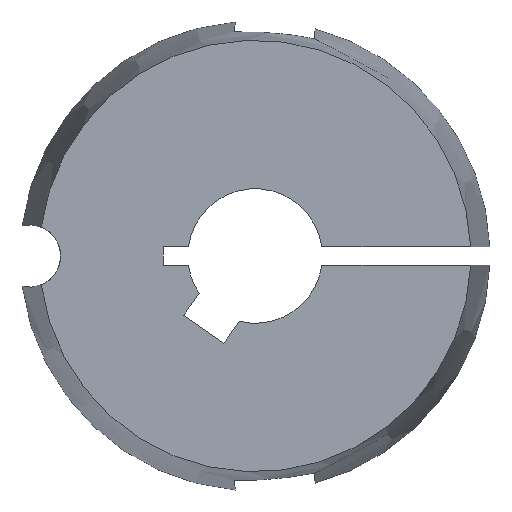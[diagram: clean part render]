
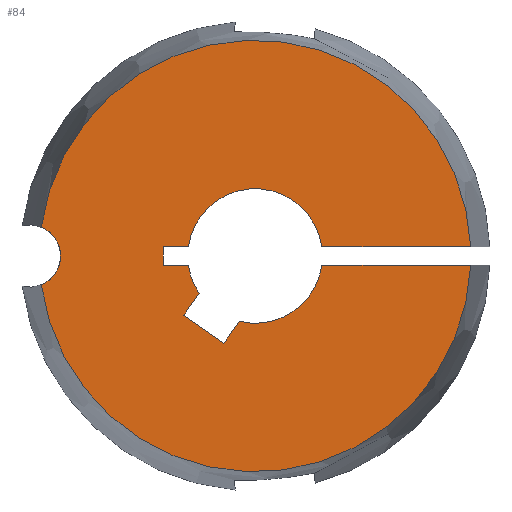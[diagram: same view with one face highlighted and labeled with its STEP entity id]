
A CAD part, left-side view. The second image highlights one B-rep face of the part: STEP entity #84.
In plain terms, the highlighted planar face has unit normal (-1, 0, 0).
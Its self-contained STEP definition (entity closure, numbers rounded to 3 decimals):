
#84 = ADVANCED_FACE( '', ( #114 ), #115, .F. );
#114 = FACE_OUTER_BOUND( '', #154, .T. );
#115 = PLANE( '', #155 );
#154 = EDGE_LOOP( '', ( #251, #252, #253, #254, #255, #256, #257, #258, #259, #260, #261, #262, #263, #264 ) );
#155 = AXIS2_PLACEMENT_3D( '', #265, #266, #267 );
#251 = ORIENTED_EDGE( '', *, *, #349, .T. );
#252 = ORIENTED_EDGE( '', *, *, #381, .F. );
#253 = ORIENTED_EDGE( '', *, *, #352, .T. );
#254 = ORIENTED_EDGE( '', *, *, #365, .T. );
#255 = ORIENTED_EDGE( '', *, *, #363, .T. );
#256 = ORIENTED_EDGE( '', *, *, #360, .T. );
#257 = ORIENTED_EDGE( '', *, *, #369, .T. );
#258 = ORIENTED_EDGE( '', *, *, #382, .T. );
#259 = ORIENTED_EDGE( '', *, *, #383, .T. );
#260 = ORIENTED_EDGE( '', *, *, #384, .T. );
#261 = ORIENTED_EDGE( '', *, *, #385, .T. );
#262 = ORIENTED_EDGE( '', *, *, #386, .T. );
#263 = ORIENTED_EDGE( '', *, *, #354, .T. );
#264 = ORIENTED_EDGE( '', *, *, #387, .F. );
#265 = CARTESIAN_POINT( '', ( -22.3, 0., 0. ) );
#266 = DIRECTION( '', ( 1., 0., 0. ) );
#267 = DIRECTION( '', ( 0., 0., -1. ) );
#349 = EDGE_CURVE( '', #402, #407, #409, .T. );
#352 = EDGE_CURVE( '', #415, #413, #416, .T. );
#354 = EDGE_CURVE( '', #418, #419, #420, .T. );
#360 = EDGE_CURVE( '', #431, #429, #432, .T. );
#363 = EDGE_CURVE( '', #436, #431, #437, .T. );
#365 = EDGE_CURVE( '', #413, #436, #439, .T. );
#369 = EDGE_CURVE( '', #429, #443, #445, .T. );
#381 = EDGE_CURVE( '', #415, #407, #465, .T. );
#382 = EDGE_CURVE( '', #443, #466, #467, .T. );
#383 = EDGE_CURVE( '', #466, #468, #469, .T. );
#384 = EDGE_CURVE( '', #468, #470, #471, .T. );
#385 = EDGE_CURVE( '', #470, #472, #473, .T. );
#386 = EDGE_CURVE( '', #472, #418, #474, .T. );
#387 = EDGE_CURVE( '', #402, #419, #475, .T. );
#402 = VERTEX_POINT( '', #513 );
#407 = VERTEX_POINT( '', #523 );
#409 = CIRCLE( '', #530, 2.55 );
#413 = VERTEX_POINT( '', #535 );
#415 = VERTEX_POINT( '', #538 );
#416 = LINE( '', #539, #540 );
#418 = VERTEX_POINT( '', #548 );
#419 = VERTEX_POINT( '', #549 );
#420 = LINE( '', #550, #551 );
#429 = VERTEX_POINT( '', #569 );
#431 = VERTEX_POINT( '', #572 );
#432 = LINE( '', #573, #574 );
#436 = VERTEX_POINT( '', #580 );
#437 = LINE( '', #581, #582 );
#439 = CIRCLE( '', #585, 5.5 );
#443 = VERTEX_POINT( '', #590 );
#445 = LINE( '', #593, #594 );
#465 = CIRCLE( '', #617, 17.641 );
#466 = VERTEX_POINT( '', #618 );
#467 = CIRCLE( '', #619, 5.5 );
#468 = VERTEX_POINT( '', #620 );
#469 = LINE( '', #621, #622 );
#470 = VERTEX_POINT( '', #623 );
#471 = LINE( '', #624, #625 );
#472 = VERTEX_POINT( '', #626 );
#473 = LINE( '', #627, #628 );
#474 = CIRCLE( '', #629, 5.5 );
#475 = CIRCLE( '', #630, 17.641 );
#513 = CARTESIAN_POINT( '', ( -22.3, 17.483, 2.355 ) );
#523 = CARTESIAN_POINT( '', ( -22.3, 17.483, -2.355 ) );
#530 = AXIS2_PLACEMENT_3D( '', #686, #687, #688 );
#535 = CARTESIAN_POINT( '', ( -22.3, -5.449, -0.75 ) );
#538 = CARTESIAN_POINT( '', ( -22.3, -17.625, -0.75 ) );
#539 = CARTESIAN_POINT( '', ( -22.3, -19.2, -0.75 ) );
#540 = VECTOR( '', #691, 1000. );
#548 = CARTESIAN_POINT( '', ( -22.3, -5.449, 0.75 ) );
#549 = CARTESIAN_POINT( '', ( -22.3, -17.625, 0.75 ) );
#550 = CARTESIAN_POINT( '', ( -22.3, 0., 0.75 ) );
#551 = VECTOR( '', #692, 1000. );
#569 = CARTESIAN_POINT( '', ( -22.3, 5.825, -4.833 ) );
#572 = CARTESIAN_POINT( '', ( -22.3, 2.549, -7.127 ) );
#573 = CARTESIAN_POINT( '', ( -22.3, 2.549, -7.127 ) );
#574 = VECTOR( '', #697, 1000. );
#580 = CARTESIAN_POINT( '', ( -22.3, 1.3, -5.344 ) );
#581 = CARTESIAN_POINT( '', ( -22.3, 1.3, -5.344 ) );
#582 = VECTOR( '', #700, 1000. );
#585 = AXIS2_PLACEMENT_3D( '', #702, #703, #704 );
#590 = CARTESIAN_POINT( '', ( -22.3, 4.577, -3.05 ) );
#593 = CARTESIAN_POINT( '', ( -22.3, 5.825, -4.833 ) );
#594 = VECTOR( '', #710, 1000. );
#617 = AXIS2_PLACEMENT_3D( '', #738, #739, #740 );
#618 = CARTESIAN_POINT( '', ( -22.3, 5.449, -0.75 ) );
#619 = AXIS2_PLACEMENT_3D( '', #741, #742, #743 );
#620 = CARTESIAN_POINT( '', ( -22.3, 7.5, -0.75 ) );
#621 = CARTESIAN_POINT( '', ( -22.3, 0., -0.75 ) );
#622 = VECTOR( '', #744, 1000. );
#623 = CARTESIAN_POINT( '', ( -22.3, 7.5, 0.75 ) );
#624 = CARTESIAN_POINT( '', ( -22.3, 7.5, -0.75 ) );
#625 = VECTOR( '', #745, 1000. );
#626 = CARTESIAN_POINT( '', ( -22.3, 5.449, 0.75 ) );
#627 = CARTESIAN_POINT( '', ( -22.3, 7.5, 0.75 ) );
#628 = VECTOR( '', #746, 1000. );
#629 = AXIS2_PLACEMENT_3D( '', #747, #748, #749 );
#630 = AXIS2_PLACEMENT_3D( '', #750, #751, #752 );
#686 = CARTESIAN_POINT( '', ( -22.3, 18.46, 0. ) );
#687 = DIRECTION( '', ( 1., 0., 0. ) );
#688 = DIRECTION( '', ( 0., 1., 0. ) );
#691 = DIRECTION( '', ( 0., 1., 0. ) );
#692 = DIRECTION( '', ( 0., -1., 0. ) );
#697 = DIRECTION( '', ( 0., 0.819, 0.574 ) );
#700 = DIRECTION( '', ( 0., 0.574, -0.819 ) );
#702 = CARTESIAN_POINT( '', ( -22.3, 0., 0. ) );
#703 = DIRECTION( '', ( 1., 0., 0. ) );
#704 = DIRECTION( '', ( 0., 0., -1. ) );
#710 = DIRECTION( '', ( 0., -0.574, 0.819 ) );
#738 = CARTESIAN_POINT( '', ( -22.3, 0., 0. ) );
#739 = DIRECTION( '', ( 1., 0., 0. ) );
#740 = DIRECTION( '', ( 0., 0., -1. ) );
#741 = CARTESIAN_POINT( '', ( -22.3, 0., 0. ) );
#742 = DIRECTION( '', ( 1., 0., 0. ) );
#743 = DIRECTION( '', ( 0., 0., -1. ) );
#744 = DIRECTION( '', ( 0., 1., 0. ) );
#745 = DIRECTION( '', ( 0., 0., 1. ) );
#746 = DIRECTION( '', ( 0., -1., 0. ) );
#747 = CARTESIAN_POINT( '', ( -22.3, 0., 0. ) );
#748 = DIRECTION( '', ( 1., 0., 0. ) );
#749 = DIRECTION( '', ( 0., 0., -1. ) );
#750 = CARTESIAN_POINT( '', ( -22.3, 0., 0. ) );
#751 = DIRECTION( '', ( 1., 0., 0. ) );
#752 = DIRECTION( '', ( 0., 0., -1. ) );
